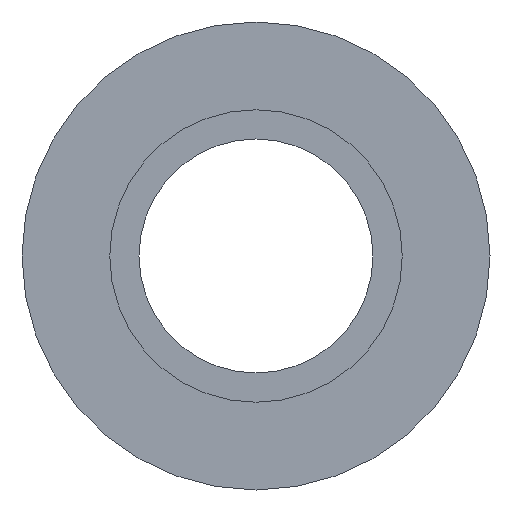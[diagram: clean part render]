
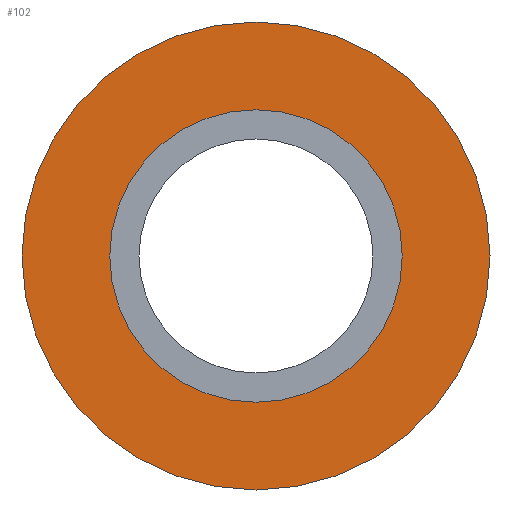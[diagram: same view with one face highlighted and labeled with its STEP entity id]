
A CAD part, left-side view. The second image highlights one B-rep face of the part: STEP entity #102.
In plain terms, the highlighted planar face has unit normal (-1, 0, 0).
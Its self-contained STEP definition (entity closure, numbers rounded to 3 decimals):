
#28=ORIENTED_EDGE('',*,*,#43,.F.);
#29=ORIENTED_EDGE('',*,*,#42,.T.);
#42=EDGE_CURVE('',#50,#50,#58,.T.);
#43=EDGE_CURVE('',#51,#51,#59,.T.);
#50=VERTEX_POINT('',#179);
#51=VERTEX_POINT('',#182);
#58=CIRCLE('',#125,2.5);
#59=CIRCLE('',#127,4.);
#68=EDGE_LOOP('',(#28));
#69=EDGE_LOOP('',(#29));
#84=FACE_BOUND('',#68,.T.);
#85=FACE_BOUND('',#69,.T.);
#97=PLANE('',#126);
#102=ADVANCED_FACE('',(#84,#85),#97,.F.);
#125=AXIS2_PLACEMENT_3D('',#178,#147,#148);
#126=AXIS2_PLACEMENT_3D('',#180,#149,#150);
#127=AXIS2_PLACEMENT_3D('',#181,#151,#152);
#147=DIRECTION('',(1.,0.,0.));
#148=DIRECTION('',(0.,0.,-1.));
#149=DIRECTION('',(1.,0.,0.));
#150=DIRECTION('',(0.,0.,-1.));
#151=DIRECTION('',(1.,0.,0.));
#152=DIRECTION('',(0.,0.,-1.));
#178=CARTESIAN_POINT('',(2.,0.,0.));
#179=CARTESIAN_POINT('',(2.,0.,-2.5));
#180=CARTESIAN_POINT('',(2.,2.5,0.));
#181=CARTESIAN_POINT('',(2.,0.,0.));
#182=CARTESIAN_POINT('',(2.,0.,-4.));
